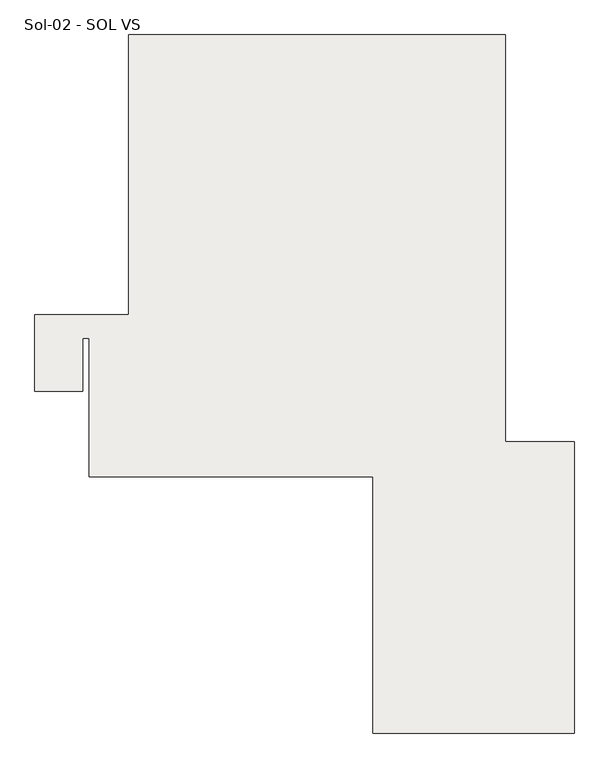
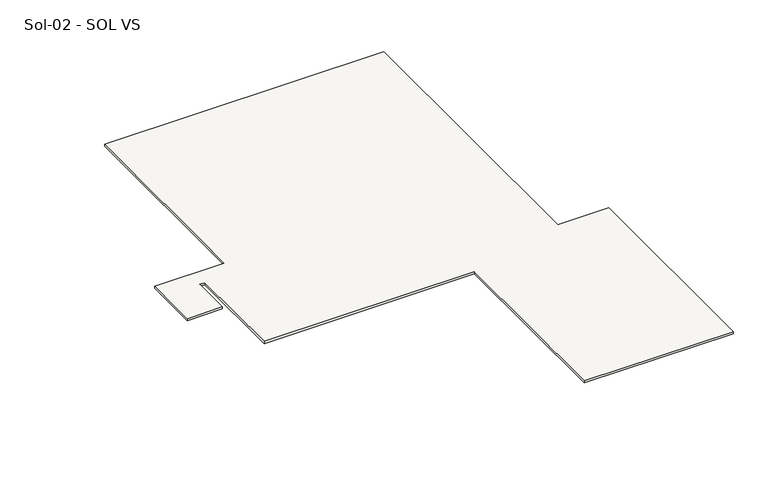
"""IFC4 building model written with IfcOpenShell, lengths in millimetres: slab geometry, Sol-02 - SOL VS."""

from ifc_helpers import new_model, si_unit, frame, origin, place, context, project, spatial, polyline, outline, extrude, source, transform, mapped, element, save


def sol_02_sol_vs_a03c268d(model_context):
    return source(origin(), model_context, "Body", "SweptSolid", [
        extrude(outline(polyline([(-113474.8280797, -37654.1966115), (-113474.8280797, -33725.2180652), (-108636.1304765, -33725.2180652), (-108636.1304765, -19313.8903364), (-89219.3218006, -19313.8903364), (-89219.3218006, -40262.7903364), (-85689.873809, -40262.7903364), (-85689.873809, -55265.0173441), (-96049.873809, -55265.0173441), (-96049.873809, -42055.0027343), (-110668.8280797, -42055.0027343), (-110668.8280797, -34925.2180652), (-111021.8280797, -34925.2180652), (-111021.8280797, -37654.1966115), (-113474.8280797, -37654.1966115)])), frame((0.0, 0.0, -153.258597), z_axis=(0.0, 0.0, 1.0), x_axis=(1.0, 0.0, 0.0)), (0.0, 0.0, 1.0), 150.0),
    ])


if __name__ == "__main__":
    model = new_model("IFC4")
    model_context = context("Model", 3, world=origin())
    ifc_project = project(units=[si_unit("LENGTHUNIT", "METRE", prefix="MILLI")], contexts=[model_context])
    site = spatial("IfcSite", under=ifc_project)
    building = spatial("IfcBuilding", under=site)
    placement = place(None, origin())
    sol_02_sol_vs_shape = sol_02_sol_vs_a03c268d(model_context)
    element("IfcSlab", 1, ObjectType="Sol-02 - SOL VS", at=placement, inside=building, context=model_context, shape_type="MappedRepresentation", body=[
        mapped(sol_02_sol_vs_shape, transform((0.0, 0.0, 0.0), x_axis=(1.0, 0.0, 0.0), y_axis=(0.0, 1.0, 0.0), z_axis=(0.0, 0.0, 1.0))),
    ])
    save(model, "model.ifc")
